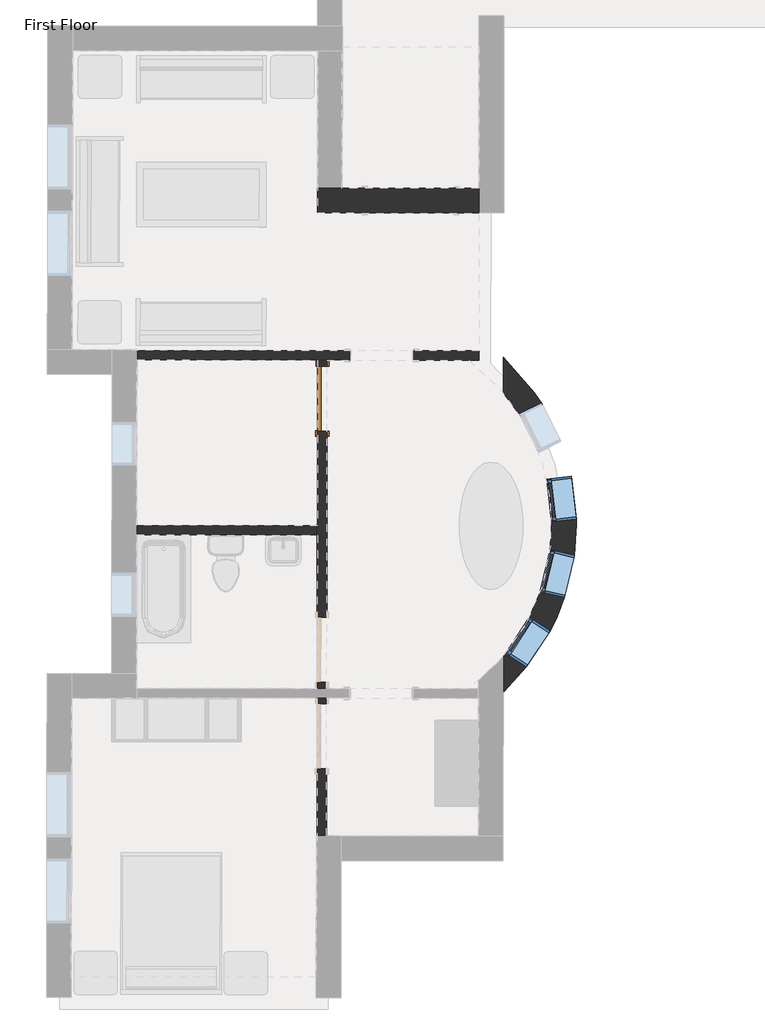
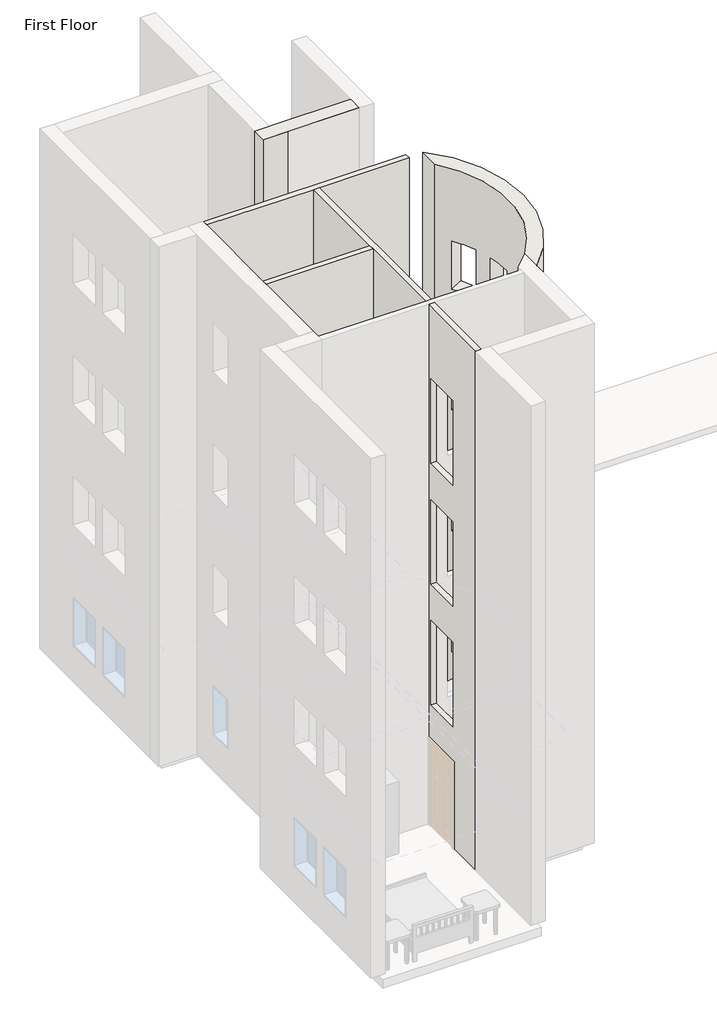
# One storey, part 10 of 22: 5 walls, 3 windows, 1 door.
"""IFC4 building model written with IfcOpenShell, lengths in millimetres."""

from ifc_helpers import new_model, si_unit, frame, origin, origin_with_axes, place, context, project, spatial, polyline, circle_curve, outline, extrude, faceted_brep, transform, mapped, element, save
from ifc_brep_helpers import plane_surface, cylinder_surface, revolved_surface, advanced_brep
from components import m_single_flush_0915_x_2134mm_08e0827a, m_fixed_0610_x_1220mm_2c28ef1d, m_fixed_0610_x_1220mm_1ea27827

model = new_model("IFC4")

# Units and contexts
model_context = context("Model", 3, world=origin())
ifc_project = project(units=[si_unit("LENGTHUNIT", "METRE", prefix="MILLI")], contexts=[model_context])

# Site, building, storey
site = spatial("IfcSite", under=ifc_project)
building = spatial("IfcBuilding", under=site)
storey = spatial("IfcBuildingStorey", under=building, Name="First Floor", Elevation=0.0)

# Door
placement = place(None, origin())
m_single_flush_0915_x_2134mm_shape = m_single_flush_0915_x_2134mm_08e0827a(model_context)
element("IfcDoor", 1, ObjectType="M_Single-Flush : 0915 x 2134mm", at=placement, inside=storey, context=model_context, shape_type="MappedRepresentation", body=[
    mapped(m_single_flush_0915_x_2134mm_shape, transform((-30110.3916422, -11034.8800064, 0.0), x_axis=(0.0014474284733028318, 0.9999989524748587, 0.0), y_axis=(-0.9999989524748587, 0.0014474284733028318, 0.0), z_axis=(0.0, 0.0, 1.0))),
])

# Walls
element("IfcWall", 2, ObjectType="Exterior - Brick on Mtl. Stud", at=placement, inside=storey, context=model_context, shape_type="Brep", body=[
    faceted_brep([(-27895.0916203, -8064.2811614, 0.0), (-29831.0916203, -8064.2811614, 0.0), (-30181.0916203, -8064.2811614, 0.0), (-30181.0916203, -8064.2811614, 13107.0), (-29831.0916203, -8064.2811614, 13107.0), (-27895.0916203, -8064.2811614, 13107.0), (-27895.0916203, -8414.2811614, 0.0), (-27895.0916203, -8414.2811614, 13107.0), (-27895.5961928, -8414.2811614, 13107.0), (-30181.0916203, -8414.2811614, 13107.0), (-30181.0916203, -8414.2811614, 0.0), (-27895.5961928, -8414.2811614, 0.0)], [[[0, 1, 2, 3, 4, 5]], [[6, 7, 8, 9, 10, 11]], [[2, 1, 0, 6, 11, 10]], [[5, 4, 3, 9, 8, 7]], [[0, 5, 7, 6]], [[3, 2, 10, 9]]]),
])
element("IfcWall", 3, ObjectType="Exterior - Brick on Mtl. Stud", at=placement, inside=storey, context=model_context, shape_type="AdvancedBrep", body=[
    advanced_brep(
    [(-27549.2751645, -10956.2613328, 13107.0), (-27554.6547514, -14672.9086878, 13107.0), (-27555.3862129, -15178.2606268, 13107.0), (-27548.543703, -10450.9093937, 13107.0), (-27554.6547514, -14672.9086878, 0.0), (-27549.2751645, -10956.2613328, 0.0), (-27548.543703, -10450.9093937, 0.0), (-27555.3862129, -15178.2606268, 0.0), (-27520.0158029, -14631.4021728, 2135.0), (-27520.0158029, -14631.4021728, 915.0), (-27185.8837278, -14121.0535112, 915.0), (-27185.8837278, -14121.0535112, 2135.0), (-27031.6069202, -13761.3294525, 2135.0), (-27031.6069202, -13761.3294525, 915.0), (-26892.1749972, -13167.4786809, 915.0), (-26892.1749972, -13167.4786809, 2135.0), (-26942.3208705, -12170.9571474, 915.0), (-26942.3208705, -12170.9571474, 2135.0), (-26870.2350936, -12776.6828616, 2135.0), (-26870.2350936, -12776.6828616, 915.0), (-27330.2730153, -11251.6841147, 915.0), (-27330.2730153, -11251.6841147, 2135.0), (-27055.3641472, -11796.2253108, 2135.0), (-27055.3641472, -11796.2253108, 915.0), (-26942.3208705, -12170.9571474, 10059.0), (-26942.3208705, -12170.9571474, 11279.0), (-26870.2350936, -12776.6828616, 11279.0), (-26870.2350936, -12776.6828616, 10059.0), (-27330.2730153, -11251.6841147, 10059.0), (-27330.2730153, -11251.6841147, 11279.0), (-27055.3641472, -11796.2253108, 11279.0), (-27055.3641472, -11796.2253108, 10059.0), (-27031.6069202, -13761.3294525, 10059.0), (-26892.1749972, -13167.4786809, 10059.0), (-26892.1749972, -13167.4786809, 11279.0), (-27031.6069202, -13761.3294525, 11279.0), (-27520.0158029, -14631.4021728, 10059.0), (-27185.8837278, -14121.0535112, 10059.0), (-27185.8837278, -14121.0535112, 11279.0), (-27520.0158029, -14631.4021728, 11279.0), (-26942.3208705, -12170.9571474, 3963.0), (-26942.3208705, -12170.9571474, 5183.0), (-26870.2350936, -12776.6828616, 5183.0), (-26870.2350936, -12776.6828616, 3963.0), (-27330.2730153, -11251.6841147, 3963.0), (-27330.2730153, -11251.6841147, 5183.0), (-27055.3641472, -11796.2253108, 5183.0), (-27055.3641472, -11796.2253108, 3963.0), (-27031.6069202, -13761.3294525, 3963.0), (-26892.1749972, -13167.4786809, 3963.0), (-26892.1749972, -13167.4786809, 5183.0), (-27031.6069202, -13761.3294525, 5183.0), (-27520.0158029, -14631.4021728, 3963.0), (-27185.8837278, -14121.0535112, 3963.0), (-27185.8837278, -14121.0535112, 5183.0), (-27520.0158029, -14631.4021728, 5183.0), (-26942.3208705, -12170.9571474, 7011.0), (-26942.3208705, -12170.9571474, 8231.0), (-26870.2350936, -12776.6828616, 8231.0), (-26870.2350936, -12776.6828616, 7011.0), (-27330.2730153, -11251.6841147, 7011.0), (-27330.2730153, -11251.6841147, 8231.0), (-27055.3641472, -11796.2253108, 8231.0), (-27055.3641472, -11796.2253108, 7011.0), (-27031.6069202, -13761.3294525, 7011.0), (-26892.1749972, -13167.4786809, 7011.0), (-26892.1749972, -13167.4786809, 8231.0), (-27031.6069202, -13761.3294525, 8231.0), (-27520.0158029, -14631.4021728, 7011.0), (-27185.8837278, -14121.0535112, 7011.0), (-27185.8837278, -14121.0535112, 8231.0), (-27520.0158029, -14631.4021728, 8231.0), (-27225.7106882, -14824.0876564, 915.0), (-27225.7106882, -14824.0876564, 2135.0), (-26891.5786131, -14313.7389949, 2135.0), (-26891.5786131, -14313.7389949, 915.0), (-26689.1482589, -13841.7363021, 915.0), (-26689.1482589, -13841.7363021, 2135.0), (-26549.7163359, -13247.8855306, 2135.0), (-26549.7163359, -13247.8855306, 915.0), (-26593.0142313, -12129.3871103, 915.0), (-26520.9284545, -12735.1128244, 915.0), (-26520.9284545, -12735.1128244, 2135.0), (-26593.0142313, -12129.3871103, 2135.0), (-27016.2499342, -11093.1511508, 915.0), (-26741.3410661, -11637.6923468, 915.0), (-26741.3410661, -11637.6923468, 2135.0), (-27016.2499342, -11093.1511508, 2135.0), (-26593.0142313, -12129.3871103, 10059.0), (-26520.9284545, -12735.1128244, 10059.0), (-26520.9284545, -12735.1128244, 11279.0), (-26593.0142313, -12129.3871103, 11279.0), (-27016.2499342, -11093.1511508, 10059.0), (-26741.3410661, -11637.6923468, 10059.0), (-26741.3410661, -11637.6923468, 11279.0), (-27016.2499342, -11093.1511508, 11279.0), (-26689.1482589, -13841.7363021, 10059.0), (-26689.1482589, -13841.7363021, 11279.0), (-26549.7163359, -13247.8855306, 11279.0), (-26549.7163359, -13247.8855306, 10059.0), (-27225.7106882, -14824.0876564, 10059.0), (-27225.7106882, -14824.0876564, 11279.0), (-26891.5786131, -14313.7389949, 11279.0), (-26891.5786131, -14313.7389949, 10059.0), (-26593.0142313, -12129.3871103, 3963.0), (-26520.9284545, -12735.1128244, 3963.0), (-26520.9284545, -12735.1128244, 5183.0), (-26593.0142313, -12129.3871103, 5183.0), (-27016.2499342, -11093.1511508, 3963.0), (-26741.3410661, -11637.6923468, 3963.0), (-26741.3410661, -11637.6923468, 5183.0), (-27016.2499342, -11093.1511508, 5183.0), (-26689.1482589, -13841.7363021, 3963.0), (-26689.1482589, -13841.7363021, 5183.0), (-26549.7163359, -13247.8855306, 5183.0), (-26549.7163359, -13247.8855306, 3963.0), (-27225.7106882, -14824.0876564, 3963.0), (-27225.7106882, -14824.0876564, 5183.0), (-26891.5786131, -14313.7389949, 5183.0), (-26891.5786131, -14313.7389949, 3963.0), (-26593.0142313, -12129.3871103, 7011.0), (-26520.9284545, -12735.1128244, 7011.0), (-26520.9284545, -12735.1128244, 8231.0), (-26593.0142313, -12129.3871103, 8231.0), (-27016.2499342, -11093.1511508, 7011.0), (-26741.3410661, -11637.6923468, 7011.0), (-26741.3410661, -11637.6923468, 8231.0), (-27016.2499342, -11093.1511508, 8231.0), (-26689.1482589, -13841.7363021, 7011.0), (-26689.1482589, -13841.7363021, 8231.0), (-26549.7163359, -13247.8855306, 8231.0), (-26549.7163359, -13247.8855306, 7011.0), (-27225.7106882, -14824.0876564, 7011.0), (-27225.7106882, -14824.0876564, 8231.0), (-26891.5786131, -14313.7389949, 8231.0), (-26891.5786131, -14313.7389949, 7011.0)],
    [
        (0, 1, circle_curve(frame((-29743.0251618, -12811.413604, 13107.0), z_axis=(0.0, 0.0, -1.0), x_axis=(0.0014474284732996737, 0.9999989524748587, 0.0)), 2873.0)),
        (1, 2),
        (2, 3, circle_curve(frame((-29743.0251618, -12811.413604, 13107.0), z_axis=(0.0, 0.0, 1.0), x_axis=(0.0014474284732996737, 0.9999989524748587, 0.0)), 3223.0)),
        (3, 0),
        (4, 5, circle_curve(frame((-29743.0251618, -12811.413604, 0.0), z_axis=(0.0, 0.0, 1.0), x_axis=(0.0014474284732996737, 0.9999989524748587, 0.0)), 2873.0)),
        (5, 6),
        (6, 7, circle_curve(frame((-29743.0251618, -12811.413604, 0.0), z_axis=(0.0, 0.0, -1.0), x_axis=(0.0014474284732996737, 0.9999989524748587, 0.0)), 3223.0)),
        (7, 4),
        (0, 5),
        (4, 1),
        (8, 9),
        (9, 10, circle_curve(frame((-29743.0251618, -12811.413604, 915.0), z_axis=(0.0, 0.0, 1.0), x_axis=(0.0014474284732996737, 0.9999989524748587, 0.0)), 2873.0)),
        (10, 11),
        (11, 8, circle_curve(frame((-29743.0251618, -12811.413604, 2135.0), z_axis=(0.0, 0.0, -1.0), x_axis=(0.0014474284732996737, 0.9999989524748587, 0.0)), 2873.0)),
        (12, 13),
        (13, 14, circle_curve(frame((-29743.0251618, -12811.413604, 915.0), z_axis=(0.0, 0.0, 1.0), x_axis=(0.0014474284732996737, 0.9999989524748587, 0.0)), 2873.0)),
        (14, 15),
        (15, 12, circle_curve(frame((-29743.0251618, -12811.413604, 2135.0), z_axis=(0.0, 0.0, -1.0), x_axis=(0.0014474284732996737, 0.9999989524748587, 0.0)), 2873.0)),
        (16, 17),
        (17, 18, circle_curve(frame((-29743.0251618, -12811.413604, 2135.0), z_axis=(0.0, 0.0, -1.0), x_axis=(0.0014474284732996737, 0.9999989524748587, 0.0)), 2873.0)),
        (18, 19),
        (19, 16, circle_curve(frame((-29743.0251618, -12811.413604, 915.0), z_axis=(0.0, 0.0, 1.0), x_axis=(0.0014474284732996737, 0.9999989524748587, 0.0)), 2873.0)),
        (20, 21),
        (21, 22, circle_curve(frame((-29743.0251618, -12811.413604, 2135.0), z_axis=(0.0, 0.0, -1.0), x_axis=(0.0014474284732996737, 0.9999989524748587, 0.0)), 2873.0)),
        (22, 23),
        (23, 20, circle_curve(frame((-29743.0251618, -12811.413604, 915.0), z_axis=(0.0, 0.0, 1.0), x_axis=(0.0014474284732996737, 0.9999989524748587, 0.0)), 2873.0)),
        (24, 25),
        (25, 26, circle_curve(frame((-29743.0251618, -12811.413604, 11279.0), z_axis=(0.0, 0.0, -1.0), x_axis=(0.0014474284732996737, 0.9999989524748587, 0.0)), 2873.0)),
        (26, 27),
        (27, 24, circle_curve(frame((-29743.0251618, -12811.413604, 10059.0), z_axis=(0.0, 0.0, 1.0), x_axis=(0.0014474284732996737, 0.9999989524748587, 0.0)), 2873.0)),
        (28, 29),
        (29, 30, circle_curve(frame((-29743.0251618, -12811.413604, 11279.0), z_axis=(0.0, 0.0, -1.0), x_axis=(0.0014474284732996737, 0.9999989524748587, 0.0)), 2873.0)),
        (30, 31),
        (31, 28, circle_curve(frame((-29743.0251618, -12811.413604, 10059.0), z_axis=(0.0, 0.0, 1.0), x_axis=(0.0014474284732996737, 0.9999989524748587, 0.0)), 2873.0)),
        (32, 33, circle_curve(frame((-29743.0251618, -12811.413604, 10059.0), z_axis=(0.0, 0.0, 1.0), x_axis=(0.0014474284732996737, 0.9999989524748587, 0.0)), 2873.0)),
        (33, 34),
        (34, 35, circle_curve(frame((-29743.0251618, -12811.413604, 11279.0), z_axis=(0.0, 0.0, -1.0), x_axis=(0.0014474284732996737, 0.9999989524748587, 0.0)), 2873.0)),
        (35, 32),
        (36, 37, circle_curve(frame((-29743.0251618, -12811.413604, 10059.0), z_axis=(0.0, 0.0, 1.0), x_axis=(0.0014474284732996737, 0.9999989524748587, 0.0)), 2873.0)),
        (37, 38),
        (38, 39, circle_curve(frame((-29743.0251618, -12811.413604, 11279.0), z_axis=(0.0, 0.0, -1.0), x_axis=(0.0014474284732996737, 0.9999989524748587, 0.0)), 2873.0)),
        (39, 36),
        (40, 41),
        (41, 42, circle_curve(frame((-29743.0251618, -12811.413604, 5183.0), z_axis=(0.0, 0.0, -1.0), x_axis=(0.0014474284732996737, 0.9999989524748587, 0.0)), 2873.0)),
        (42, 43),
        (43, 40, circle_curve(frame((-29743.0251618, -12811.413604, 3963.0), z_axis=(0.0, 0.0, 1.0), x_axis=(0.0014474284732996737, 0.9999989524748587, 0.0)), 2873.0)),
        (44, 45),
        (45, 46, circle_curve(frame((-29743.0251618, -12811.413604, 5183.0), z_axis=(0.0, 0.0, -1.0), x_axis=(0.0014474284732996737, 0.9999989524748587, 0.0)), 2873.0)),
        (46, 47),
        (47, 44, circle_curve(frame((-29743.0251618, -12811.413604, 3963.0), z_axis=(0.0, 0.0, 1.0), x_axis=(0.0014474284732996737, 0.9999989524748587, 0.0)), 2873.0)),
        (48, 49, circle_curve(frame((-29743.0251618, -12811.413604, 3963.0), z_axis=(0.0, 0.0, 1.0), x_axis=(0.0014474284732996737, 0.9999989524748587, 0.0)), 2873.0)),
        (49, 50),
        (50, 51, circle_curve(frame((-29743.0251618, -12811.413604, 5183.0), z_axis=(0.0, 0.0, -1.0), x_axis=(0.0014474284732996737, 0.9999989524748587, 0.0)), 2873.0)),
        (51, 48),
        (52, 53, circle_curve(frame((-29743.0251618, -12811.413604, 3963.0), z_axis=(0.0, 0.0, 1.0), x_axis=(0.0014474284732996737, 0.9999989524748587, 0.0)), 2873.0)),
        (53, 54),
        (54, 55, circle_curve(frame((-29743.0251618, -12811.413604, 5183.0), z_axis=(0.0, 0.0, -1.0), x_axis=(0.0014474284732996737, 0.9999989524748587, 0.0)), 2873.0)),
        (55, 52),
        (56, 57),
        (57, 58, circle_curve(frame((-29743.0251618, -12811.413604, 8231.0), z_axis=(0.0, 0.0, -1.0), x_axis=(0.0014474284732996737, 0.9999989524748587, 0.0)), 2873.0)),
        (58, 59),
        (59, 56, circle_curve(frame((-29743.0251618, -12811.413604, 7011.0), z_axis=(0.0, 0.0, 1.0), x_axis=(0.0014474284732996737, 0.9999989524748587, 0.0)), 2873.0)),
        (60, 61),
        (61, 62, circle_curve(frame((-29743.0251618, -12811.413604, 8231.0), z_axis=(0.0, 0.0, -1.0), x_axis=(0.0014474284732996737, 0.9999989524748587, 0.0)), 2873.0)),
        (62, 63),
        (63, 60, circle_curve(frame((-29743.0251618, -12811.413604, 7011.0), z_axis=(0.0, 0.0, 1.0), x_axis=(0.0014474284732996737, 0.9999989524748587, 0.0)), 2873.0)),
        (64, 65, circle_curve(frame((-29743.0251618, -12811.413604, 7011.0), z_axis=(0.0, 0.0, 1.0), x_axis=(0.0014474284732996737, 0.9999989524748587, 0.0)), 2873.0)),
        (65, 66),
        (66, 67, circle_curve(frame((-29743.0251618, -12811.413604, 8231.0), z_axis=(0.0, 0.0, -1.0), x_axis=(0.0014474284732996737, 0.9999989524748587, 0.0)), 2873.0)),
        (67, 64),
        (68, 69, circle_curve(frame((-29743.0251618, -12811.413604, 7011.0), z_axis=(0.0, 0.0, 1.0), x_axis=(0.0014474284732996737, 0.9999989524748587, 0.0)), 2873.0)),
        (69, 70),
        (70, 71, circle_curve(frame((-29743.0251618, -12811.413604, 8231.0), z_axis=(0.0, 0.0, -1.0), x_axis=(0.0014474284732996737, 0.9999989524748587, 0.0)), 2873.0)),
        (71, 68),
        (2, 7),
        (6, 3),
        (72, 73),
        (73, 74, circle_curve(frame((-29743.0251618, -12811.413604, 2135.0), z_axis=(0.0, 0.0, 1.0), x_axis=(0.0014474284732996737, 0.9999989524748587, 0.0)), 3223.0)),
        (74, 75),
        (75, 72, circle_curve(frame((-29743.0251618, -12811.413604, 915.0), z_axis=(0.0, 0.0, -1.0), x_axis=(0.0014474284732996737, 0.9999989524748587, 0.0)), 3223.0)),
        (76, 77),
        (77, 78, circle_curve(frame((-29743.0251618, -12811.413604, 2135.0), z_axis=(0.0, 0.0, 1.0), x_axis=(0.0014474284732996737, 0.9999989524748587, 0.0)), 3223.0)),
        (78, 79),
        (79, 76, circle_curve(frame((-29743.0251618, -12811.413604, 915.0), z_axis=(0.0, 0.0, -1.0), x_axis=(0.0014474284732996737, 0.9999989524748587, 0.0)), 3223.0)),
        (80, 81, circle_curve(frame((-29743.0251618, -12811.413604, 915.0), z_axis=(0.0, 0.0, -1.0), x_axis=(0.0014474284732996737, 0.9999989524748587, 0.0)), 3223.0)),
        (81, 82),
        (82, 83, circle_curve(frame((-29743.0251618, -12811.413604, 2135.0), z_axis=(0.0, 0.0, 1.0), x_axis=(0.0014474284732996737, 0.9999989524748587, 0.0)), 3223.0)),
        (83, 80),
        (84, 85, circle_curve(frame((-29743.0251618, -12811.413604, 915.0), z_axis=(0.0, 0.0, -1.0), x_axis=(0.0014474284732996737, 0.9999989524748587, 0.0)), 3223.0)),
        (85, 86),
        (86, 87, circle_curve(frame((-29743.0251618, -12811.413604, 2135.0), z_axis=(0.0, 0.0, 1.0), x_axis=(0.0014474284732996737, 0.9999989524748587, 0.0)), 3223.0)),
        (87, 84),
        (88, 89, circle_curve(frame((-29743.0251618, -12811.413604, 10059.0), z_axis=(0.0, 0.0, -1.0), x_axis=(0.0014474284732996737, 0.9999989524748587, 0.0)), 3223.0)),
        (89, 90),
        (90, 91, circle_curve(frame((-29743.0251618, -12811.413604, 11279.0), z_axis=(0.0, 0.0, 1.0), x_axis=(0.0014474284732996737, 0.9999989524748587, 0.0)), 3223.0)),
        (91, 88),
        (92, 93, circle_curve(frame((-29743.0251618, -12811.413604, 10059.0), z_axis=(0.0, 0.0, -1.0), x_axis=(0.0014474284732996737, 0.9999989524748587, 0.0)), 3223.0)),
        (93, 94),
        (94, 95, circle_curve(frame((-29743.0251618, -12811.413604, 11279.0), z_axis=(0.0, 0.0, 1.0), x_axis=(0.0014474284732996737, 0.9999989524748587, 0.0)), 3223.0)),
        (95, 92),
        (96, 97),
        (97, 98, circle_curve(frame((-29743.0251618, -12811.413604, 11279.0), z_axis=(0.0, 0.0, 1.0), x_axis=(0.0014474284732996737, 0.9999989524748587, 0.0)), 3223.0)),
        (98, 99),
        (99, 96, circle_curve(frame((-29743.0251618, -12811.413604, 10059.0), z_axis=(0.0, 0.0, -1.0), x_axis=(0.0014474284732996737, 0.9999989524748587, 0.0)), 3223.0)),
        (100, 101),
        (101, 102, circle_curve(frame((-29743.0251618, -12811.413604, 11279.0), z_axis=(0.0, 0.0, 1.0), x_axis=(0.0014474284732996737, 0.9999989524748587, 0.0)), 3223.0)),
        (102, 103),
        (103, 100, circle_curve(frame((-29743.0251618, -12811.413604, 10059.0), z_axis=(0.0, 0.0, -1.0), x_axis=(0.0014474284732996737, 0.9999989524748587, 0.0)), 3223.0)),
        (104, 105, circle_curve(frame((-29743.0251618, -12811.413604, 3963.0), z_axis=(0.0, 0.0, -1.0), x_axis=(0.0014474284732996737, 0.9999989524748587, 0.0)), 3223.0)),
        (105, 106),
        (106, 107, circle_curve(frame((-29743.0251618, -12811.413604, 5183.0), z_axis=(0.0, 0.0, 1.0), x_axis=(0.0014474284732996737, 0.9999989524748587, 0.0)), 3223.0)),
        (107, 104),
        (108, 109, circle_curve(frame((-29743.0251618, -12811.413604, 3963.0), z_axis=(0.0, 0.0, -1.0), x_axis=(0.0014474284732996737, 0.9999989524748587, 0.0)), 3223.0)),
        (109, 110),
        (110, 111, circle_curve(frame((-29743.0251618, -12811.413604, 5183.0), z_axis=(0.0, 0.0, 1.0), x_axis=(0.0014474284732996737, 0.9999989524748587, 0.0)), 3223.0)),
        (111, 108),
        (112, 113),
        (113, 114, circle_curve(frame((-29743.0251618, -12811.413604, 5183.0), z_axis=(0.0, 0.0, 1.0), x_axis=(0.0014474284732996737, 0.9999989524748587, 0.0)), 3223.0)),
        (114, 115),
        (115, 112, circle_curve(frame((-29743.0251618, -12811.413604, 3963.0), z_axis=(0.0, 0.0, -1.0), x_axis=(0.0014474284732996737, 0.9999989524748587, 0.0)), 3223.0)),
        (116, 117),
        (117, 118, circle_curve(frame((-29743.0251618, -12811.413604, 5183.0), z_axis=(0.0, 0.0, 1.0), x_axis=(0.0014474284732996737, 0.9999989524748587, 0.0)), 3223.0)),
        (118, 119),
        (119, 116, circle_curve(frame((-29743.0251618, -12811.413604, 3963.0), z_axis=(0.0, 0.0, -1.0), x_axis=(0.0014474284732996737, 0.9999989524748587, 0.0)), 3223.0)),
        (120, 121, circle_curve(frame((-29743.0251618, -12811.413604, 7011.0), z_axis=(0.0, 0.0, -1.0), x_axis=(0.0014474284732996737, 0.9999989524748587, 0.0)), 3223.0)),
        (121, 122),
        (122, 123, circle_curve(frame((-29743.0251618, -12811.413604, 8231.0), z_axis=(0.0, 0.0, 1.0), x_axis=(0.0014474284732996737, 0.9999989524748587, 0.0)), 3223.0)),
        (123, 120),
        (124, 125, circle_curve(frame((-29743.0251618, -12811.413604, 7011.0), z_axis=(0.0, 0.0, -1.0), x_axis=(0.0014474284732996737, 0.9999989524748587, 0.0)), 3223.0)),
        (125, 126),
        (126, 127, circle_curve(frame((-29743.0251618, -12811.413604, 8231.0), z_axis=(0.0, 0.0, 1.0), x_axis=(0.0014474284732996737, 0.9999989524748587, 0.0)), 3223.0)),
        (127, 124),
        (128, 129),
        (129, 130, circle_curve(frame((-29743.0251618, -12811.413604, 8231.0), z_axis=(0.0, 0.0, 1.0), x_axis=(0.0014474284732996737, 0.9999989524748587, 0.0)), 3223.0)),
        (130, 131),
        (131, 128, circle_curve(frame((-29743.0251618, -12811.413604, 7011.0), z_axis=(0.0, 0.0, -1.0), x_axis=(0.0014474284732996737, 0.9999989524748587, 0.0)), 3223.0)),
        (132, 133),
        (133, 134, circle_curve(frame((-29743.0251618, -12811.413604, 8231.0), z_axis=(0.0, 0.0, 1.0), x_axis=(0.0014474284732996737, 0.9999989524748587, 0.0)), 3223.0)),
        (134, 135),
        (135, 132, circle_curve(frame((-29743.0251618, -12811.413604, 7011.0), z_axis=(0.0, 0.0, -1.0), x_axis=(0.0014474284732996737, 0.9999989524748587, 0.0)), 3223.0)),
        (72, 9),
        (8, 73),
        (11, 74),
        (10, 75),
        (76, 13),
        (12, 77),
        (15, 78),
        (14, 79),
        (16, 80),
        (83, 17),
        (82, 18),
        (81, 19),
        (20, 84),
        (87, 21),
        (86, 22),
        (85, 23),
        (24, 88),
        (91, 25),
        (90, 26),
        (89, 27),
        (28, 92),
        (95, 29),
        (94, 30),
        (93, 31),
        (96, 32),
        (35, 97),
        (34, 98),
        (33, 99),
        (100, 36),
        (39, 101),
        (38, 102),
        (37, 103),
        (40, 104),
        (107, 41),
        (106, 42),
        (105, 43),
        (44, 108),
        (111, 45),
        (110, 46),
        (109, 47),
        (112, 48),
        (51, 113),
        (50, 114),
        (49, 115),
        (116, 52),
        (55, 117),
        (54, 118),
        (53, 119),
        (56, 120),
        (123, 57),
        (122, 58),
        (121, 59),
        (60, 124),
        (127, 61),
        (126, 62),
        (125, 63),
        (128, 64),
        (67, 129),
        (66, 130),
        (65, 131),
        (132, 68),
        (71, 133),
        (70, 134),
        (69, 135),
    ],
    [
        plane_surface(frame((-29738.8666998, -9938.4166136, 13107.0), z_axis=(0.0, 0.0, 1.0), x_axis=(0.9999989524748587, -0.001447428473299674, 0.0))),
        plane_surface(frame((-29738.8666998, -9938.4166136, 0.0), z_axis=(0.0, 0.0, -1.0), x_axis=(-0.9999989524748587, 0.001447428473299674, 0.0))),
        revolved_surface(polyline([(-29738.86669979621, -9938.41661353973, 0.0), (-29738.86669979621, -9938.41661353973, 13107.0)]), (-29743.0251618, -12811.413604, 0.0), (0.0, 0.0, -1.0)),
        cylinder_surface(frame((-29743.0251618, -12811.413604, 0.0), z_axis=(0.0, 0.0, 1.0), x_axis=(0.0014474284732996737, 0.9999989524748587, 0.0)), 3223.0),
        plane_surface(frame((-27545.347315, -8242.5897996, 0.0), z_axis=(-0.9999989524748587, 0.0014474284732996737, 0.0), x_axis=(0.0014474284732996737, 0.9999989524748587, 0.0))),
        plane_surface(frame((-27558.5826009, -17386.580221, 0.0), z_axis=(-0.9999989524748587, 0.0014474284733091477, 0.0), x_axis=(0.0014474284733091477, 0.9999989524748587, 0.0))),
        plane_surface(frame((-27225.7106882, -14824.0876564, 915.0), z_axis=(0.5477575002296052, 0.8366371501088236, 0.0), x_axis=(-0.8366371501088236, 0.5477575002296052, 0.0))),
        plane_surface(frame((-27225.7106882, -14824.0876564, 2135.0), z_axis=(0.0, 0.0, -1.0), x_axis=(-0.8366371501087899, 0.5477575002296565, 0.0))),
        plane_surface(frame((-26891.5786131, -14313.7389949, 2135.0), z_axis=(-0.5477575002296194, -0.8366371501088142, 0.0), x_axis=(-0.8366371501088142, 0.5477575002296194, 0.0))),
        plane_surface(frame((-26891.5786131, -14313.7389949, 915.0), z_axis=(0.0, 0.0, 1.0), x_axis=(-0.8366371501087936, 0.5477575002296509, 0.0))),
        plane_surface(frame((-28174.5262739, -13492.9801449, 915.0), z_axis=(0.22857692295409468, 0.9735258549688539, 0.0), x_axis=(0.9735258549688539, -0.22857692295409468, 0.0))),
        plane_surface(frame((-28174.5262739, -13492.9801449, 2135.0), z_axis=(0.0, 0.0, -1.0000000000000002), x_axis=(0.9735258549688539, -0.22857692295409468, 0.0))),
        plane_surface(frame((-28035.0943509, -12899.1293734, 2135.0), z_axis=(-0.22857692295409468, -0.9735258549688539, 0.0), x_axis=(0.9735258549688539, -0.22857692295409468, 0.0))),
        plane_surface(frame((-28035.0943509, -12899.1293734, 915.0), z_axis=(0.0, 0.0, 1.0000000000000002), x_axis=(0.9735258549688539, -0.22857692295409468, 0.0))),
        plane_surface(frame((-26942.3208705, -12170.9571474, 915.0), z_axis=(0.118173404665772, -0.9929929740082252, 0.0), x_axis=(0.9929929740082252, 0.118173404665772, 0.0))),
        plane_surface(frame((-26942.3208705, -12170.9571474, 2135.0), z_axis=(0.0, 0.0, -1.0000000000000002), x_axis=(0.9929929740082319, 0.11817340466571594, 0.0))),
        plane_surface(frame((-26870.2350936, -12776.6828616, 2135.0), z_axis=(-0.118173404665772, 0.9929929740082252, 0.0), x_axis=(0.9929929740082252, 0.118173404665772, 0.0))),
        plane_surface(frame((-26870.2350936, -12776.6828616, 915.0), z_axis=(0.0, 0.0, 1.0000000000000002), x_axis=(0.9929929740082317, 0.11817340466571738, 0.0))),
        plane_surface(frame((-27330.2730153, -11251.6841147, 915.0), z_axis=(0.4506702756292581, -0.8926904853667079, 0.0), x_axis=(0.8926904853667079, 0.4506702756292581, 0.0))),
        plane_surface(frame((-27330.2730153, -11251.6841147, 2135.0), z_axis=(0.0, 0.0, -1.0000000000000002), x_axis=(0.8926904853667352, 0.450670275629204, 0.0))),
        plane_surface(frame((-27055.3641472, -11796.2253108, 2135.0), z_axis=(-0.4506702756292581, 0.8926904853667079, 0.0), x_axis=(0.8926904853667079, 0.4506702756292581, 0.0))),
        plane_surface(frame((-27055.3641472, -11796.2253108, 915.0), z_axis=(0.0, 0.0, 1.0), x_axis=(0.8926904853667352, 0.45067027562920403, 0.0))),
        plane_surface(frame((-26942.3208705, -12170.9571474, 10059.0), z_axis=(0.118173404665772, -0.9929929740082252, 0.0), x_axis=(0.9929929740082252, 0.118173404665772, 0.0))),
        plane_surface(frame((-26942.3208705, -12170.9571474, 11279.0), z_axis=(0.0, 0.0, -1.0000000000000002), x_axis=(0.9929929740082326, 0.11817340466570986, 0.0))),
        plane_surface(frame((-26870.2350936, -12776.6828616, 11279.0), z_axis=(-0.118173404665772, 0.9929929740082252, 0.0), x_axis=(0.9929929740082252, 0.118173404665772, 0.0))),
        plane_surface(frame((-26870.2350936, -12776.6828616, 10059.0), z_axis=(0.0, 0.0, 1.0), x_axis=(0.9929929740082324, 0.1181734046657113, 0.0))),
        plane_surface(frame((-27330.2730153, -11251.6841147, 10059.0), z_axis=(0.4506702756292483, -0.8926904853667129, 0.0), x_axis=(0.8926904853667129, 0.4506702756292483, 0.0))),
        plane_surface(frame((-27330.2730153, -11251.6841147, 11279.0), z_axis=(0.0, 0.0, -1.0000000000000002), x_axis=(0.8926904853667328, 0.45067027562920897, 0.0))),
        plane_surface(frame((-27055.3641472, -11796.2253108, 11279.0), z_axis=(-0.450670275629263, 0.8926904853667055, 0.0), x_axis=(0.8926904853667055, 0.450670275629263, 0.0))),
        plane_surface(frame((-27055.3641472, -11796.2253108, 10059.0), z_axis=(0.0, 0.0, 1.0000000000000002), x_axis=(0.8926904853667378, 0.45067027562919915, 0.0))),
        plane_surface(frame((-26689.1482589, -13841.7363021, 10059.0), z_axis=(0.22857692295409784, 0.9735258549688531, 0.0), x_axis=(-0.9735258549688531, 0.22857692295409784, 0.0))),
        plane_surface(frame((-26689.1482589, -13841.7363021, 11279.0), z_axis=(0.0, 0.0, -1.0), x_axis=(-0.9735258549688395, 0.22857692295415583, 0.0))),
        plane_surface(frame((-26549.7163359, -13247.8855306, 11279.0), z_axis=(-0.2285769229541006, -0.9735258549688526, 0.0), x_axis=(-0.9735258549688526, 0.2285769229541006, 0.0))),
        plane_surface(frame((-26549.7163359, -13247.8855306, 10059.0), z_axis=(0.0, 0.0, 1.0), x_axis=(-0.9735258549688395, 0.22857692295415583, 0.0))),
        plane_surface(frame((-27225.7106882, -14824.0876564, 10059.0), z_axis=(0.5477575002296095, 0.8366371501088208, 0.0), x_axis=(-0.8366371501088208, 0.5477575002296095, 0.0))),
        plane_surface(frame((-27225.7106882, -14824.0876564, 11279.0), z_axis=(0.0, 0.0, -1.0000000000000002), x_axis=(-0.8366371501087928, 0.5477575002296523, 0.0))),
        plane_surface(frame((-26891.5786131, -14313.7389949, 11279.0), z_axis=(-0.5477575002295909, -0.8366371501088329, 0.0), x_axis=(-0.8366371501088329, 0.5477575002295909, 0.0))),
        plane_surface(frame((-26891.5786131, -14313.7389949, 10059.0), z_axis=(0.0, 0.0, 1.0), x_axis=(-0.8366371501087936, 0.5477575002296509, 0.0))),
        plane_surface(frame((-26942.3208705, -12170.9571474, 3963.0), z_axis=(0.118173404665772, -0.9929929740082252, 0.0), x_axis=(0.9929929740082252, 0.118173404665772, 0.0))),
        plane_surface(frame((-26942.3208705, -12170.9571474, 5183.0), z_axis=(0.0, 0.0, -1.0000000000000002), x_axis=(0.9929929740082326, 0.11817340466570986, 0.0))),
        plane_surface(frame((-26870.2350936, -12776.6828616, 5183.0), z_axis=(-0.118173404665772, 0.9929929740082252, 0.0), x_axis=(0.9929929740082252, 0.118173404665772, 0.0))),
        plane_surface(frame((-26870.2350936, -12776.6828616, 3963.0), z_axis=(0.0, 0.0, 1.0), x_axis=(0.9929929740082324, 0.1181734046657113, 0.0))),
        plane_surface(frame((-27330.2730153, -11251.6841147, 3963.0), z_axis=(0.4506702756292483, -0.8926904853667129, 0.0), x_axis=(0.8926904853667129, 0.4506702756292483, 0.0))),
        plane_surface(frame((-27330.2730153, -11251.6841147, 5183.0), z_axis=(0.0, 0.0, -1.0000000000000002), x_axis=(0.8926904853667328, 0.45067027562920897, 0.0))),
        plane_surface(frame((-27055.3641472, -11796.2253108, 5183.0), z_axis=(-0.450670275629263, 0.8926904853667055, 0.0), x_axis=(0.8926904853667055, 0.450670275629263, 0.0))),
        plane_surface(frame((-27055.3641472, -11796.2253108, 3963.0), z_axis=(0.0, 0.0, 1.0000000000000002), x_axis=(0.8926904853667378, 0.45067027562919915, 0.0))),
        plane_surface(frame((-26689.1482589, -13841.7363021, 3963.0), z_axis=(0.22857692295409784, 0.9735258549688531, 0.0), x_axis=(-0.9735258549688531, 0.22857692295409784, 0.0))),
        plane_surface(frame((-26689.1482589, -13841.7363021, 5183.0), z_axis=(0.0, 0.0, -1.0), x_axis=(-0.9735258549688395, 0.22857692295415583, 0.0))),
        plane_surface(frame((-26549.7163359, -13247.8855306, 5183.0), z_axis=(-0.2285769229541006, -0.9735258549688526, 0.0), x_axis=(-0.9735258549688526, 0.2285769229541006, 0.0))),
        plane_surface(frame((-26549.7163359, -13247.8855306, 3963.0), z_axis=(0.0, 0.0, 1.0), x_axis=(-0.9735258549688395, 0.22857692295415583, 0.0))),
        plane_surface(frame((-27225.7106882, -14824.0876564, 3963.0), z_axis=(0.5477575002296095, 0.8366371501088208, 0.0), x_axis=(-0.8366371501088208, 0.5477575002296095, 0.0))),
        plane_surface(frame((-27225.7106882, -14824.0876564, 5183.0), z_axis=(0.0, 0.0, -1.0000000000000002), x_axis=(-0.8366371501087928, 0.5477575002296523, 0.0))),
        plane_surface(frame((-26891.5786131, -14313.7389949, 5183.0), z_axis=(-0.5477575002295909, -0.8366371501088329, 0.0), x_axis=(-0.8366371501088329, 0.5477575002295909, 0.0))),
        plane_surface(frame((-26891.5786131, -14313.7389949, 3963.0), z_axis=(0.0, 0.0, 1.0), x_axis=(-0.8366371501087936, 0.5477575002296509, 0.0))),
        plane_surface(frame((-26942.3208705, -12170.9571474, 7011.0), z_axis=(0.118173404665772, -0.9929929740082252, 0.0), x_axis=(0.9929929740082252, 0.118173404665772, 0.0))),
        plane_surface(frame((-26942.3208705, -12170.9571474, 8231.0), z_axis=(0.0, 0.0, -1.0000000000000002), x_axis=(0.9929929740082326, 0.11817340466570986, 0.0))),
        plane_surface(frame((-26870.2350936, -12776.6828616, 8231.0), z_axis=(-0.118173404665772, 0.9929929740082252, 0.0), x_axis=(0.9929929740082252, 0.118173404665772, 0.0))),
        plane_surface(frame((-26870.2350936, -12776.6828616, 7011.0), z_axis=(0.0, 0.0, 1.0), x_axis=(0.9929929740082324, 0.1181734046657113, 0.0))),
        plane_surface(frame((-27330.2730153, -11251.6841147, 7011.0), z_axis=(0.4506702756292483, -0.8926904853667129, 0.0), x_axis=(0.8926904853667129, 0.4506702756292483, 0.0))),
        plane_surface(frame((-27330.2730153, -11251.6841147, 8231.0), z_axis=(0.0, 0.0, -1.0000000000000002), x_axis=(0.8926904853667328, 0.45067027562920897, 0.0))),
        plane_surface(frame((-27055.3641472, -11796.2253108, 8231.0), z_axis=(-0.450670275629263, 0.8926904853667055, 0.0), x_axis=(0.8926904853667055, 0.450670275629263, 0.0))),
        plane_surface(frame((-27055.3641472, -11796.2253108, 7011.0), z_axis=(0.0, 0.0, 1.0000000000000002), x_axis=(0.8926904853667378, 0.45067027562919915, 0.0))),
        plane_surface(frame((-26689.1482589, -13841.7363021, 7011.0), z_axis=(0.22857692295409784, 0.9735258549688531, 0.0), x_axis=(-0.9735258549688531, 0.22857692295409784, 0.0))),
        plane_surface(frame((-26689.1482589, -13841.7363021, 8231.0), z_axis=(0.0, 0.0, -1.0), x_axis=(-0.9735258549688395, 0.22857692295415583, 0.0))),
        plane_surface(frame((-26549.7163359, -13247.8855306, 8231.0), z_axis=(-0.2285769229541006, -0.9735258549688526, 0.0), x_axis=(-0.9735258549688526, 0.2285769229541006, 0.0))),
        plane_surface(frame((-26549.7163359, -13247.8855306, 7011.0), z_axis=(0.0, 0.0, 1.0), x_axis=(-0.9735258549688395, 0.22857692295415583, 0.0))),
        plane_surface(frame((-27225.7106882, -14824.0876564, 7011.0), z_axis=(0.5477575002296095, 0.8366371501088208, 0.0), x_axis=(-0.8366371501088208, 0.5477575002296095, 0.0))),
        plane_surface(frame((-27225.7106882, -14824.0876564, 8231.0), z_axis=(0.0, 0.0, -1.0000000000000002), x_axis=(-0.8366371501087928, 0.5477575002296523, 0.0))),
        plane_surface(frame((-26891.5786131, -14313.7389949, 8231.0), z_axis=(-0.5477575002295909, -0.8366371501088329, 0.0), x_axis=(-0.8366371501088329, 0.5477575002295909, 0.0))),
        plane_surface(frame((-26891.5786131, -14313.7389949, 7011.0), z_axis=(0.0, 0.0, 1.0), x_axis=(-0.8366371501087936, 0.5477575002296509, 0.0))),
    ],
    [
        (0, [[1, 2, 3, 4]]),
        (1, [[5, 6, 7, 8]]),
        (2, [[-1, 9, -5, 10], [11, 12, 13, 14], [15, 16, 17, 18], [19, 20, 21, 22], [23, 24, 25, 26], [27, 28, 29, 30], [31, 32, 33, 34], [35, 36, 37, 38], [39, 40, 41, 42], [43, 44, 45, 46], [47, 48, 49, 50], [51, 52, 53, 54], [55, 56, 57, 58], [59, 60, 61, 62], [63, 64, 65, 66], [67, 68, 69, 70], [71, 72, 73, 74]]),
        (3, [[-3, 75, -7, 76], [77, 78, 79, 80], [81, 82, 83, 84], [85, 86, 87, 88], [89, 90, 91, 92], [93, 94, 95, 96], [97, 98, 99, 100], [101, 102, 103, 104], [105, 106, 107, 108], [109, 110, 111, 112], [113, 114, 115, 116], [117, 118, 119, 120], [121, 122, 123, 124], [125, 126, 127, 128], [129, 130, 131, 132], [133, 134, 135, 136], [137, 138, 139, 140]]),
        (4, [[-4, -76, -6, -9]]),
        (5, [[-2, -10, -8, -75]]),
        (6, [[-77, 141, -11, 142]]),
        (7, [[-78, -142, -14, 143]]),
        (8, [[-79, -143, -13, 144]]),
        (9, [[-80, -144, -12, -141]]),
        (10, [[145, -15, 146, -81]]),
        (11, [[-146, -18, 147, -82]]),
        (12, [[-147, -17, 148, -83]]),
        (13, [[-145, -84, -148, -16]]),
        (14, [[-19, 149, -88, 150]]),
        (15, [[-20, -150, -87, 151]]),
        (16, [[-21, -151, -86, 152]]),
        (17, [[-22, -152, -85, -149]]),
        (18, [[-23, 153, -92, 154]]),
        (19, [[-24, -154, -91, 155]]),
        (20, [[-25, -155, -90, 156]]),
        (21, [[-26, -156, -89, -153]]),
        (22, [[-27, 157, -96, 158]]),
        (23, [[-28, -158, -95, 159]]),
        (24, [[-29, -159, -94, 160]]),
        (25, [[-30, -160, -93, -157]]),
        (26, [[-31, 161, -100, 162]]),
        (27, [[-32, -162, -99, 163]]),
        (28, [[-33, -163, -98, 164]]),
        (29, [[-34, -164, -97, -161]]),
        (30, [[-101, 165, -38, 166]]),
        (31, [[-102, -166, -37, 167]]),
        (32, [[-103, -167, -36, 168]]),
        (33, [[-104, -168, -35, -165]]),
        (34, [[-105, 169, -42, 170]]),
        (35, [[-106, -170, -41, 171]]),
        (36, [[-107, -171, -40, 172]]),
        (37, [[-108, -172, -39, -169]]),
        (38, [[-43, 173, -112, 174]]),
        (39, [[-44, -174, -111, 175]]),
        (40, [[-45, -175, -110, 176]]),
        (41, [[-46, -176, -109, -173]]),
        (42, [[-47, 177, -116, 178]]),
        (43, [[-48, -178, -115, 179]]),
        (44, [[-49, -179, -114, 180]]),
        (45, [[-50, -180, -113, -177]]),
        (46, [[-117, 181, -54, 182]]),
        (47, [[-118, -182, -53, 183]]),
        (48, [[-119, -183, -52, 184]]),
        (49, [[-120, -184, -51, -181]]),
        (50, [[-121, 185, -58, 186]]),
        (51, [[-122, -186, -57, 187]]),
        (52, [[-123, -187, -56, 188]]),
        (53, [[-124, -188, -55, -185]]),
        (54, [[-59, 189, -128, 190]]),
        (55, [[-60, -190, -127, 191]]),
        (56, [[-61, -191, -126, 192]]),
        (57, [[-62, -192, -125, -189]]),
        (58, [[-63, 193, -132, 194]]),
        (59, [[-64, -194, -131, 195]]),
        (60, [[-65, -195, -130, 196]]),
        (61, [[-66, -196, -129, -193]]),
        (62, [[-133, 197, -70, 198]]),
        (63, [[-134, -198, -69, 199]]),
        (64, [[-135, -199, -68, 200]]),
        (65, [[-136, -200, -67, -197]]),
        (66, [[-137, 201, -74, 202]]),
        (67, [[-138, -202, -73, 203]]),
        (68, [[-139, -203, -72, 204]]),
        (69, [[-140, -204, -71, -201]]),
    ],
),
])
element("IfcWall", 4, ObjectType="Interior - 135mm Partition (2-hr)", at=placement, inside=storey, context=model_context, shape_type="Brep", body=[
    faceted_brep([(-28813.9081314, -10494.5060075, 2134.0), (-28813.9081314, -10494.5060075, 0.0), (-27898.6090902, -10495.8308387, 0.0), (-27898.6090902, -10495.8308387, 13107.0), (-30041.8568451, -10492.7286377, 13107.0), (-30177.3567032, -10492.5325111, 13107.0), (-32730.204029, -10488.8374433, 13107.0), (-32730.204029, -10488.8374433, 0.0), (-30177.3567032, -10492.5325111, 0.0), (-30041.8568451, -10492.7286377, 0.0), (-29728.907173, -10493.1816104, 0.0), (-29728.907173, -10493.1816104, 2134.0), (-29728.907173, -10493.1816104, 11278.0), (-28813.9081314, -10494.5060075, 11278.0), (-28813.9081314, -10494.5060075, 9144.0), (-29728.907173, -10493.1816104, 9144.0), (-29728.907173, -10493.1816104, 5182.0), (-28813.9081314, -10494.5060075, 5182.0), (-28813.9081314, -10494.5060075, 3048.0), (-29728.907173, -10493.1816104, 3048.0), (-29728.907173, -10493.1816104, 8230.0), (-28813.9081314, -10494.5060075, 8230.0), (-28813.9081314, -10494.5060075, 6096.0), (-29728.907173, -10493.1816104, 6096.0), (-27898.4129637, -10360.3309807, 0.0), (-28813.7120049, -10359.0061494, 0.0), (-28813.7120049, -10359.0061494, 2134.0), (-29728.7110464, -10357.6817523, 2134.0), (-29728.7110464, -10357.6817523, 0.0), (-32730.0079025, -10353.3375853, 0.0), (-32730.0079025, -10353.3375853, 13107.0), (-27898.4129637, -10360.3309807, 13107.0), (-29728.7110464, -10357.6817523, 11278.0), (-29728.7110464, -10357.6817523, 9144.0), (-28813.7120049, -10359.0061494, 9144.0), (-28813.7120049, -10359.0061494, 11278.0), (-29728.7110464, -10357.6817523, 5182.0), (-29728.7110464, -10357.6817523, 3048.0), (-28813.7120049, -10359.0061494, 3048.0), (-28813.7120049, -10359.0061494, 5182.0), (-29728.7110464, -10357.6817523, 8230.0), (-29728.7110464, -10357.6817523, 6096.0), (-28813.7120049, -10359.0061494, 6096.0), (-28813.7120049, -10359.0061494, 8230.0)], [[[0, 1, 2, 3, 4, 5, 6, 7, 8, 9, 10, 11], [12, 13, 14, 15], [16, 17, 18, 19], [20, 21, 22, 23]], [[24, 25, 26, 27, 28, 29, 30, 31], [32, 33, 34, 35], [36, 37, 38, 39], [40, 41, 42, 43]], [[2, 1, 25, 24]], [[10, 9, 8, 7, 29, 28]], [[6, 5, 4, 3, 31, 30]], [[7, 6, 30, 29]], [[3, 2, 24, 31]], [[28, 27, 11, 10]], [[26, 25, 1, 0]], [[27, 26, 0, 11]], [[33, 32, 12, 15]], [[34, 33, 15, 14]], [[35, 34, 14, 13]], [[32, 35, 13, 12]], [[37, 36, 16, 19]], [[38, 37, 19, 18]], [[39, 38, 18, 17]], [[36, 39, 17, 16]], [[41, 40, 20, 23]], [[42, 41, 23, 22]], [[43, 42, 22, 21]], [[40, 43, 21, 20]]]),
])
element("IfcWall", 5, ObjectType="Interior - 135mm Partition (2-hr)", at=placement, inside=storey, context=model_context, shape_type="Brep", body=[
    faceted_brep([(-30051.5766892, -17207.9716033, 13107.0), (-30051.5766892, -17207.9716033, 0.0), (-30050.2056126, -16260.7225955, 0.0), (-30050.2056126, -16260.7225955, 2134.0), (-30048.8812155, -15345.723554, 2134.0), (-30048.8812155, -15345.723554, 0.0), (-30048.7639738, -15264.7236389, 0.0), (-30048.7639738, -15264.7236389, 13107.0), (-30048.8812155, -15345.723554, 9144.0), (-30050.2056126, -16260.7225955, 9144.0), (-30050.2056126, -16260.7225955, 11278.0), (-30048.8812155, -15345.723554, 11278.0), (-30048.8812155, -15345.723554, 3048.0), (-30050.2056126, -16260.7225955, 3048.0), (-30050.2056126, -16260.7225955, 5182.0), (-30048.8812155, -15345.723554, 5182.0), (-30048.8812155, -15345.723554, 6096.0), (-30050.2056126, -16260.7225955, 6096.0), (-30050.2056126, -16260.7225955, 8230.0), (-30048.8812155, -15345.723554, 8230.0), (-30187.0765472, -17207.7754767, 0.0), (-30187.0765472, -17207.7754767, 13107.0), (-30184.2638319, -15264.5275123, 13107.0), (-30184.2638319, -15264.5275123, 0.0), (-30184.3810736, -15345.5274275, 0.0), (-30184.3810736, -15345.5274275, 2134.0), (-30185.7054706, -16260.526469, 2134.0), (-30185.7054706, -16260.526469, 0.0), (-30185.7054706, -16260.526469, 9144.0), (-30184.3810736, -15345.5274275, 9144.0), (-30184.3810736, -15345.5274275, 11278.0), (-30185.7054706, -16260.526469, 11278.0), (-30185.7054706, -16260.526469, 3048.0), (-30184.3810736, -15345.5274275, 3048.0), (-30184.3810736, -15345.5274275, 5182.0), (-30185.7054706, -16260.526469, 5182.0), (-30185.7054706, -16260.526469, 6096.0), (-30184.3810736, -15345.5274275, 6096.0), (-30184.3810736, -15345.5274275, 8230.0), (-30185.7054706, -16260.526469, 8230.0)], [[[0, 1, 2, 3, 4, 5, 6, 7], [8, 9, 10, 11], [12, 13, 14, 15], [16, 17, 18, 19]], [[20, 21, 22, 23, 24, 25, 26, 27], [28, 29, 30, 31], [32, 33, 34, 35], [36, 37, 38, 39]], [[1, 20, 27, 2]], [[5, 24, 23, 6]], [[21, 0, 7, 22]], [[1, 0, 21, 20]], [[7, 6, 23, 22]], [[4, 25, 24, 5]], [[25, 4, 3, 26]], [[26, 3, 2, 27]], [[29, 28, 9, 8]], [[30, 29, 8, 11]], [[31, 30, 11, 10]], [[28, 31, 10, 9]], [[33, 32, 13, 12]], [[34, 33, 12, 15]], [[35, 34, 15, 14]], [[32, 35, 14, 13]], [[37, 36, 17, 16]], [[38, 37, 16, 19]], [[39, 38, 19, 18]], [[36, 39, 18, 17]]]),
    faceted_brep([(-30041.8568451, -10492.7286377, 0.0), (-30041.8568451, -10492.7286377, 13107.0), (-30048.5678472, -15129.2237808, 13107.0), (-30048.5678472, -15129.2237808, 0.0), (-30048.4397498, -15040.7238735, 0.0), (-30048.4397498, -15040.7238735, 2134.0), (-30047.1153528, -14125.724832, 2134.0), (-30047.1153528, -14125.724832, 0.0), (-30043.3039117, -11492.4775904, 0.0), (-30043.3039117, -11492.4775904, 2134.0), (-30041.9795147, -10577.4785489, 2134.0), (-30041.9795147, -10577.4785489, 0.0), (-30041.9795147, -10577.4785489, 9144.0), (-30043.3039117, -11492.4775904, 9144.0), (-30043.3039117, -11492.4775904, 11278.0), (-30041.9795147, -10577.4785489, 11278.0), (-30047.1153528, -14125.724832, 9144.0), (-30048.4397498, -15040.7238735, 9144.0), (-30048.4397498, -15040.7238735, 11278.0), (-30047.1153528, -14125.724832, 11278.0), (-30041.9795147, -10577.4785489, 3048.0), (-30043.3039117, -11492.4775904, 3048.0), (-30043.3039117, -11492.4775904, 5182.0), (-30041.9795147, -10577.4785489, 5182.0), (-30047.1153528, -14125.724832, 3048.0), (-30048.4397498, -15040.7238735, 3048.0), (-30048.4397498, -15040.7238735, 5182.0), (-30047.1153528, -14125.724832, 5182.0), (-30041.9795147, -10577.4785489, 6096.0), (-30043.3039117, -11492.4775904, 6096.0), (-30043.3039117, -11492.4775904, 8230.0), (-30041.9795147, -10577.4785489, 8230.0), (-30047.1153528, -14125.724832, 6096.0), (-30048.4397498, -15040.7238735, 6096.0), (-30048.4397498, -15040.7238735, 8230.0), (-30047.1153528, -14125.724832, 8230.0), (-30177.3567032, -10492.5325111, 13107.0), (-30177.3567032, -10492.5325111, 0.0), (-30177.4793728, -10577.2824223, 0.0), (-30177.4793728, -10577.2824223, 2134.0), (-30178.8037698, -11492.2814638, 2134.0), (-30178.8037698, -11492.2814638, 0.0), (-30180.7366658, -12827.680065, 0.0), (-30180.9327923, -12963.179923, 0.0), (-30182.6152108, -14125.5287054, 0.0), (-30182.6152108, -14125.5287054, 2134.0), (-30183.9396079, -15040.527747, 2134.0), (-30183.9396079, -15040.527747, 0.0), (-30184.0677053, -15129.0276542, 0.0), (-30184.0677053, -15129.0276542, 13107.0), (-30180.9327923, -12963.179923, 13107.0), (-30180.7366658, -12827.680065, 13107.0), (-30178.8037698, -11492.2814638, 9144.0), (-30177.4793728, -10577.2824223, 9144.0), (-30177.4793728, -10577.2824223, 11278.0), (-30178.8037698, -11492.2814638, 11278.0), (-30183.9396079, -15040.527747, 9144.0), (-30182.6152108, -14125.5287054, 9144.0), (-30182.6152108, -14125.5287054, 11278.0), (-30183.9396079, -15040.527747, 11278.0), (-30178.8037698, -11492.2814638, 3048.0), (-30177.4793728, -10577.2824223, 3048.0), (-30177.4793728, -10577.2824223, 5182.0), (-30178.8037698, -11492.2814638, 5182.0), (-30183.9396079, -15040.527747, 3048.0), (-30182.6152108, -14125.5287054, 3048.0), (-30182.6152108, -14125.5287054, 5182.0), (-30183.9396079, -15040.527747, 5182.0), (-30178.8037698, -11492.2814638, 6096.0), (-30177.4793728, -10577.2824223, 6096.0), (-30177.4793728, -10577.2824223, 8230.0), (-30178.8037698, -11492.2814638, 8230.0), (-30183.9396079, -15040.527747, 6096.0), (-30182.6152108, -14125.5287054, 6096.0), (-30182.6152108, -14125.5287054, 8230.0), (-30183.9396079, -15040.527747, 8230.0)], [[[0, 1, 2, 3, 4, 5, 6, 7, 8, 9, 10, 11], [12, 13, 14, 15], [16, 17, 18, 19], [20, 21, 22, 23], [24, 25, 26, 27], [28, 29, 30, 31], [32, 33, 34, 35]], [[36, 37, 38, 39, 40, 41, 42, 43, 44, 45, 46, 47, 48, 49, 50, 51], [52, 53, 54, 55], [56, 57, 58, 59], [60, 61, 62, 63], [64, 65, 66, 67], [68, 69, 70, 71], [72, 73, 74, 75]], [[37, 0, 11, 38]], [[47, 4, 3, 48]], [[7, 44, 43, 42, 41, 8]], [[1, 36, 51, 50, 49, 2]], [[1, 0, 37, 36]], [[3, 2, 49, 48]], [[5, 4, 47, 46]], [[6, 5, 46, 45]], [[7, 6, 45, 44]], [[39, 38, 11, 10]], [[40, 39, 10, 9]], [[41, 40, 9, 8]], [[53, 52, 13, 12]], [[54, 53, 12, 15]], [[55, 54, 15, 14]], [[52, 55, 14, 13]], [[17, 16, 57, 56]], [[18, 17, 56, 59]], [[19, 18, 59, 58]], [[16, 19, 58, 57]], [[61, 60, 21, 20]], [[62, 61, 20, 23]], [[63, 62, 23, 22]], [[60, 63, 22, 21]], [[25, 24, 65, 64]], [[26, 25, 64, 67]], [[27, 26, 67, 66]], [[24, 27, 66, 65]], [[69, 68, 29, 28]], [[70, 69, 28, 31]], [[71, 70, 31, 30]], [[68, 71, 30, 29]], [[33, 32, 73, 72]], [[34, 33, 72, 75]], [[35, 34, 75, 74]], [[32, 35, 74, 73]]]),
])
element("IfcWall", 6, ObjectType="Interior - 135mm Partition (2-hr)", at=placement, inside=storey, context=model_context, shape_type="SweptSolid", body=[
    extrude(outline(polyline([(-30180.9327923, -12963.179923), (-32733.7801182, -12959.4848553), (-32733.5839916, -12823.9849972), (-30180.7366658, -12827.680065), (-30180.9327923, -12963.179923)])), origin_with_axes(), (0.0, 0.0, 1.0), 13107.0),
])

# Windows
m_fixed_0610_x_1220mm_shape = m_fixed_0610_x_1220mm_2c28ef1d(model_context)
element("IfcWindow", 7, ObjectType="M_Fixed : 0610 x 1220mm", at=placement, inside=storey, context=model_context, shape_type="MappedRepresentation", body=[
    mapped(m_fixed_0610_x_1220mm_shape, transform((-27195.6619811, -14479.206252, 0.0), x_axis=(0.5477575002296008, 0.8366371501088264, 0.0), y_axis=(-0.8366371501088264, 0.5477575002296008, 0.0), z_axis=(0.0, 0.0, 1.0))),
])
element("IfcWindow", 8, ObjectType="M_Fixed : 0610 x 1220mm", at=placement, inside=storey, context=model_context, shape_type="MappedRepresentation", body=[
    mapped(m_fixed_0610_x_1220mm_shape, transform((-26778.8680979, -13507.3765282, 0.0), x_axis=(0.2285769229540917, 0.9735258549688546, 0.0), y_axis=(-0.9735258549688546, 0.2285769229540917, 0.0), z_axis=(0.0, 0.0, 1.0))),
])
m_fixed_0610_x_1220mm_2_shape = m_fixed_0610_x_1220mm_1ea27827(model_context)
element("IfcWindow", 9, ObjectType="M_Fixed : 0610 x 1220mm", at=placement, inside=storey, context=model_context, shape_type="MappedRepresentation", body=[
    mapped(m_fixed_0610_x_1220mm_2_shape, transform((-26719.595303, -12451.6034044, 0.0), x_axis=(0.11817340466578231, -0.992992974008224, 0.0), y_axis=(0.992992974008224, 0.11817340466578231, 0.0), z_axis=(0.0, 0.0, 1.0))),
])

save(model, "model.ifc")
